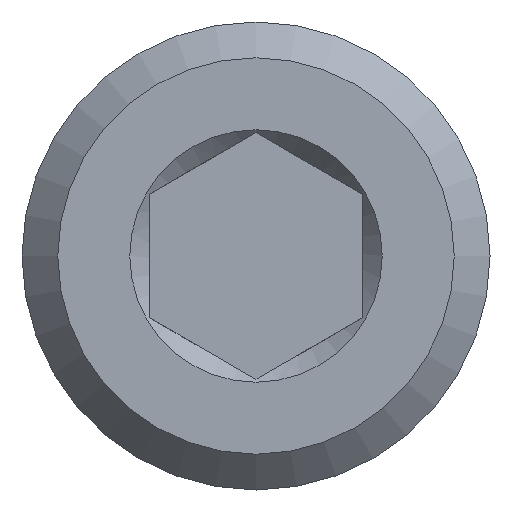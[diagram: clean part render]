
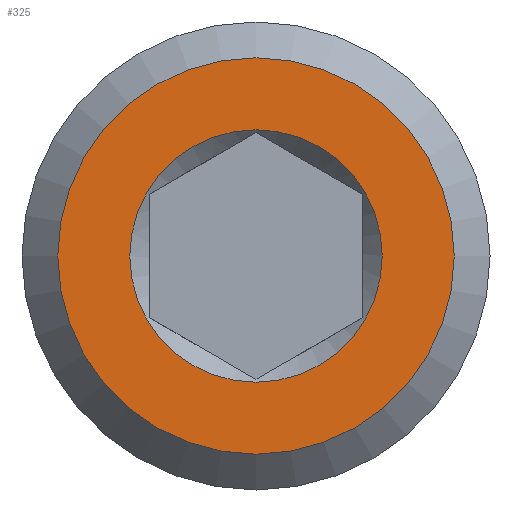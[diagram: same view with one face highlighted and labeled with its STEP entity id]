
A CAD part, front view. The second image highlights one B-rep face of the part: STEP entity #325.
In plain terms, the highlighted planar face has unit normal (0, -1, 0).
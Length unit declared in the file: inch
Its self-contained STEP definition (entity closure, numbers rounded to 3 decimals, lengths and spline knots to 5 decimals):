
#17=FACE_BOUND('',#106,.T.);
#84=FACE_OUTER_BOUND('',#105,.T.);
#105=EDGE_LOOP('',(#274));
#106=EDGE_LOOP('',(#275));
#126=CIRCLE('',#375,0.221);
#127=CIRCLE('',#377,0.347);
#157=VERTEX_POINT('',#576);
#158=VERTEX_POINT('',#580);
#199=EDGE_CURVE('',#157,#157,#126,.T.);
#200=EDGE_CURVE('',#158,#158,#127,.T.);
#274=ORIENTED_EDGE('',*,*,#200,.F.);
#275=ORIENTED_EDGE('',*,*,#199,.F.);
#308=PLANE('',#376);
#325=ADVANCED_FACE('',(#84,#17),#308,.T.);
#375=AXIS2_PLACEMENT_3D('',#578,#463,#464);
#376=AXIS2_PLACEMENT_3D('',#579,#465,#466);
#377=AXIS2_PLACEMENT_3D('',#581,#467,#468);
#463=DIRECTION('center_axis',(0.,-1.,0.));
#464=DIRECTION('ref_axis',(0.,0.,1.));
#465=DIRECTION('center_axis',(0.,-1.,0.));
#466=DIRECTION('ref_axis',(0.,0.,-1.));
#467=DIRECTION('center_axis',(0.,1.,0.));
#468=DIRECTION('ref_axis',(0.,0.,1.));
#576=CARTESIAN_POINT('',(0.,0.,-0.221));
#578=CARTESIAN_POINT('Origin',(0.,0.,0.));
#579=CARTESIAN_POINT('Origin',(0.,0.,-0.186));
#580=CARTESIAN_POINT('',(0.,0.,-0.347));
#581=CARTESIAN_POINT('Origin',(0.,0.,0.));
